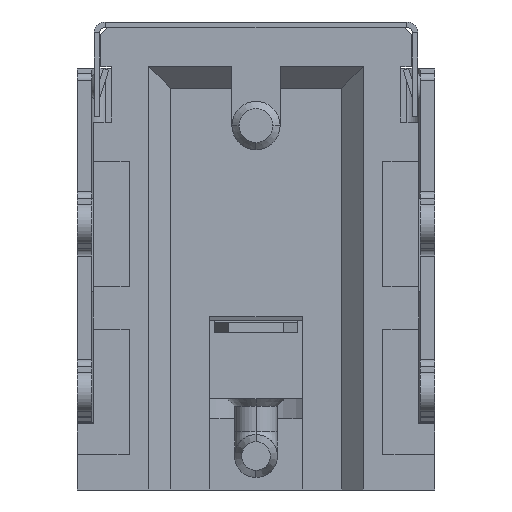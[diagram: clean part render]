
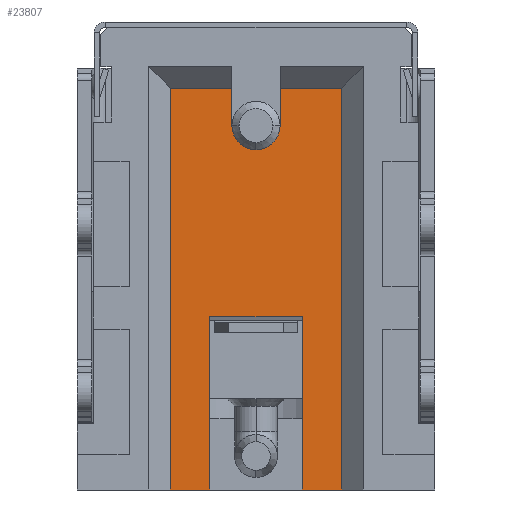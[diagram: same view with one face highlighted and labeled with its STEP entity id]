
A CAD part, front view. The second image highlights one B-rep face of the part: STEP entity #23807.
In plain terms, the highlighted planar face has unit normal (0, -1, 0).
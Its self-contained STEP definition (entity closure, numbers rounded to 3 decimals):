
#38 = VECTOR ( 'NONE', #6912, 1000. ) ;
#550 = VERTEX_POINT ( 'NONE', #32606 ) ;
#784 = CARTESIAN_POINT ( 'NONE',  ( 1.3, -4.4, 0. ) ) ;
#1056 = ORIENTED_EDGE ( 'NONE', *, *, #24795, .T. ) ;
#1122 = CARTESIAN_POINT ( 'NONE',  ( -2.4, -4.4, 11.25 ) ) ;
#1286 = EDGE_CURVE ( 'NONE', #3634, #1680, #23270, .T. ) ;
#1657 = VERTEX_POINT ( 'NONE', #5249 ) ;
#1680 = VERTEX_POINT ( 'NONE', #8391 ) ;
#1821 = DIRECTION ( 'NONE',  ( -1., 0., 0. ) ) ;
#1840 = VECTOR ( 'NONE', #6706, 1000. ) ;
#1875 = VECTOR ( 'NONE', #12422, 1000. ) ;
#2054 = PLANE ( 'NONE',  #9807 ) ;
#2376 = VERTEX_POINT ( 'NONE', #1122 ) ;
#2688 = LINE ( 'NONE', #30994, #15319 ) ;
#3254 = VECTOR ( 'NONE', #1821, 1000. ) ;
#3634 = VERTEX_POINT ( 'NONE', #34171 ) ;
#4702 = VERTEX_POINT ( 'NONE', #4886 ) ;
#4886 = CARTESIAN_POINT ( 'NONE',  ( 1.3, -4.4, 0. ) ) ;
#5104 = VECTOR ( 'NONE', #35549, 1000. ) ;
#5145 = ORIENTED_EDGE ( 'NONE', *, *, #26494, .F. ) ;
#5249 = CARTESIAN_POINT ( 'NONE',  ( -1.3, -4.4, 0. ) ) ;
#5309 = CARTESIAN_POINT ( 'NONE',  ( 1.3, -4.4, 4.85 ) ) ;
#5640 = VECTOR ( 'NONE', #6357, 1000. ) ;
#6357 = DIRECTION ( 'NONE',  ( 0., 0., -1. ) ) ;
#6542 = LINE ( 'NONE', #31715, #5640 ) ;
#6706 = DIRECTION ( 'NONE',  ( 0., 0., 1. ) ) ;
#6912 = DIRECTION ( 'NONE',  ( 1., 0., 0. ) ) ;
#6981 = EDGE_LOOP ( 'NONE', ( #19133, #28008, #22447, #5145, #13728, #20186, #11856, #22124, #34959, #12279, #24131, #1056 ) ) ;
#6988 = CARTESIAN_POINT ( 'NONE',  ( 0.675, -4.4, 11.25 ) ) ;
#7083 = CARTESIAN_POINT ( 'NONE',  ( -2.4, -4.4, 0. ) ) ;
#7184 = LINE ( 'NONE', #18473, #3254 ) ;
#7349 = CARTESIAN_POINT ( 'NONE',  ( 0., -4.4, 10.2 ) ) ;
#7892 = CARTESIAN_POINT ( 'NONE',  ( 2.4, -4.4, 11.25 ) ) ;
#8098 = CARTESIAN_POINT ( 'NONE',  ( 2.4, -4.4, 0. ) ) ;
#8391 = CARTESIAN_POINT ( 'NONE',  ( 0.675, -4.4, 10.2 ) ) ;
#8493 = EDGE_CURVE ( 'NONE', #22024, #2376, #29942, .T. ) ;
#8774 = CARTESIAN_POINT ( 'NONE',  ( -2.4, -4.4, 11.25 ) ) ;
#9289 = EDGE_CURVE ( 'NONE', #18609, #4702, #6542, .T. ) ;
#9594 = CARTESIAN_POINT ( 'NONE',  ( -0.675, -4.4, 11.25 ) ) ;
#9807 = AXIS2_PLACEMENT_3D ( 'NONE', #24615, #18880, #24435 ) ;
#9897 = EDGE_CURVE ( 'NONE', #35291, #1680, #27024, .T. ) ;
#10204 = LINE ( 'NONE', #35739, #34933 ) ;
#11856 = ORIENTED_EDGE ( 'NONE', *, *, #27398, .T. ) ;
#12174 = CARTESIAN_POINT ( 'NONE',  ( 1.3, -4.4, 4.85 ) ) ;
#12279 = ORIENTED_EDGE ( 'NONE', *, *, #9897, .T. ) ;
#12417 = LINE ( 'NONE', #32052, #1840 ) ;
#12422 = DIRECTION ( 'NONE',  ( 1., 0., 0. ) ) ;
#12456 = VECTOR ( 'NONE', #26598, 1000. ) ;
#13095 = EDGE_CURVE ( 'NONE', #33319, #35291, #7184, .T. ) ;
#13133 = FACE_OUTER_BOUND ( 'NONE', #6981, .T. ) ;
#13187 = VERTEX_POINT ( 'NONE', #8098 ) ;
#13728 = ORIENTED_EDGE ( 'NONE', *, *, #17045, .F. ) ;
#14294 = LINE ( 'NONE', #8774, #28092 ) ;
#15319 = VECTOR ( 'NONE', #17462, 1000. ) ;
#16036 = LINE ( 'NONE', #5309, #20794 ) ;
#16129 = LINE ( 'NONE', #7083, #38 ) ;
#16771 = EDGE_CURVE ( 'NONE', #24357, #1657, #16129, .T. ) ;
#17045 = EDGE_CURVE ( 'NONE', #18609, #550, #16036, .T. ) ;
#17462 = DIRECTION ( 'NONE',  ( 0., 0., 1. ) ) ;
#18473 = CARTESIAN_POINT ( 'NONE',  ( 2.4, -4.4, 11.25 ) ) ;
#18609 = VERTEX_POINT ( 'NONE', #12174 ) ;
#18628 = DIRECTION ( 'NONE',  ( -1., 0., 0. ) ) ;
#18880 = DIRECTION ( 'NONE',  ( 0., 1., 0. ) ) ;
#19133 = ORIENTED_EDGE ( 'NONE', *, *, #8493, .T. ) ;
#19199 = CARTESIAN_POINT ( 'NONE',  ( -2.4, -4.4, 0. ) ) ;
#20186 = ORIENTED_EDGE ( 'NONE', *, *, #9289, .T. ) ;
#20794 = VECTOR ( 'NONE', #27332, 1000. ) ;
#20834 = CARTESIAN_POINT ( 'NONE',  ( -0.675, -4.4, 11.25 ) ) ;
#22024 = VERTEX_POINT ( 'NONE', #20834 ) ;
#22124 = ORIENTED_EDGE ( 'NONE', *, *, #26446, .T. ) ;
#22447 = ORIENTED_EDGE ( 'NONE', *, *, #16771, .T. ) ;
#23268 = EDGE_CURVE ( 'NONE', #2376, #24357, #14294, .T. ) ;
#23270 = CIRCLE ( 'NONE', #35087, 0.675 ) ;
#23718 = LINE ( 'NONE', #784, #1875 ) ;
#23807 = ADVANCED_FACE ( 'NONE', ( #13133 ), #2054, .F. ) ;
#24131 = ORIENTED_EDGE ( 'NONE', *, *, #1286, .F. ) ;
#24252 = CARTESIAN_POINT ( 'NONE',  ( 0.675, -4.4, 11.25 ) ) ;
#24357 = VERTEX_POINT ( 'NONE', #19199 ) ;
#24435 = DIRECTION ( 'NONE',  ( 1., 0., 0. ) ) ;
#24615 = CARTESIAN_POINT ( 'NONE',  ( 0., -4.4, 5.625 ) ) ;
#24795 = EDGE_CURVE ( 'NONE', #3634, #22024, #2688, .T. ) ;
#26446 = EDGE_CURVE ( 'NONE', #13187, #33319, #12417, .T. ) ;
#26494 = EDGE_CURVE ( 'NONE', #550, #1657, #10204, .T. ) ;
#26598 = DIRECTION ( 'NONE',  ( -1., 0., 0. ) ) ;
#27024 = LINE ( 'NONE', #24252, #5104 ) ;
#27332 = DIRECTION ( 'NONE',  ( -1., 0., 0. ) ) ;
#27398 = EDGE_CURVE ( 'NONE', #4702, #13187, #23718, .T. ) ;
#28008 = ORIENTED_EDGE ( 'NONE', *, *, #23268, .T. ) ;
#28092 = VECTOR ( 'NONE', #30794, 1000. ) ;
#29738 = DIRECTION ( 'NONE',  ( 0., -1., 0. ) ) ;
#29942 = LINE ( 'NONE', #9594, #12456 ) ;
#30794 = DIRECTION ( 'NONE',  ( 0., 0., -1. ) ) ;
#30994 = CARTESIAN_POINT ( 'NONE',  ( -0.675, -4.4, 10.2 ) ) ;
#31715 = CARTESIAN_POINT ( 'NONE',  ( 1.3, -4.4, 4.85 ) ) ;
#32052 = CARTESIAN_POINT ( 'NONE',  ( 2.4, -4.4, 0. ) ) ;
#32606 = CARTESIAN_POINT ( 'NONE',  ( -1.3, -4.4, 4.85 ) ) ;
#33319 = VERTEX_POINT ( 'NONE', #7892 ) ;
#34171 = CARTESIAN_POINT ( 'NONE',  ( -0.675, -4.4, 10.2 ) ) ;
#34933 = VECTOR ( 'NONE', #35377, 1000. ) ;
#34959 = ORIENTED_EDGE ( 'NONE', *, *, #13095, .T. ) ;
#35087 = AXIS2_PLACEMENT_3D ( 'NONE', #7349, #29738, #18628 ) ;
#35291 = VERTEX_POINT ( 'NONE', #6988 ) ;
#35377 = DIRECTION ( 'NONE',  ( 0., 0., -1. ) ) ;
#35549 = DIRECTION ( 'NONE',  ( 0., 0., -1. ) ) ;
#35739 = CARTESIAN_POINT ( 'NONE',  ( -1.3, -4.4, 4.85 ) ) ;
